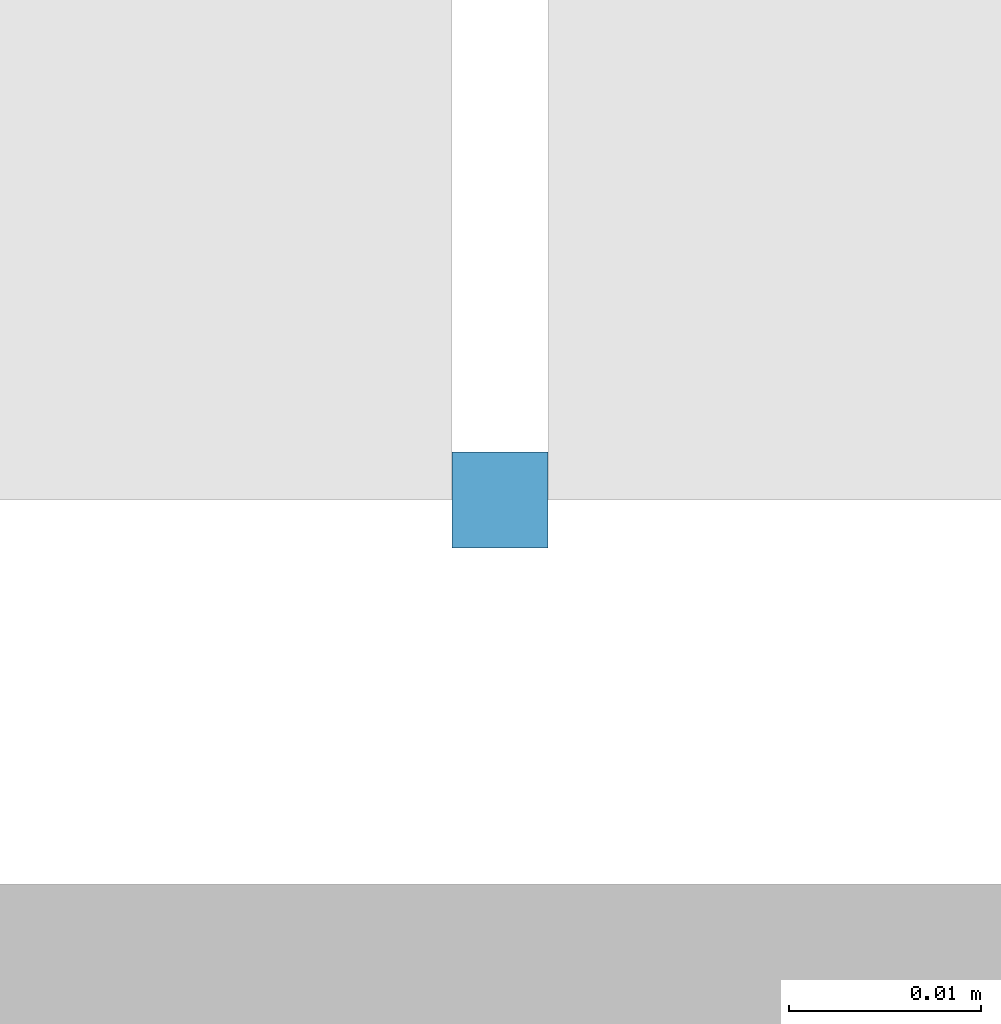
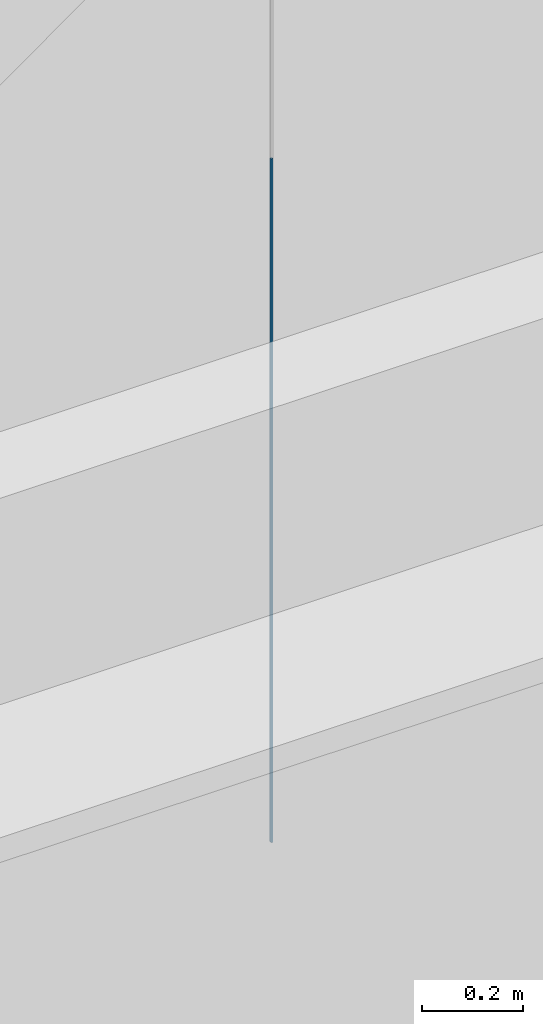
# One storey, part 109 of 302: 1 member, 1 element without a shape of its own.
"""IFC2X3 building model written with IfcOpenShell, lengths in metres."""

from ifc_helpers import new_model, entity, si_unit, converted_unit, derived_unit, direction, frame, frame_2d, origin, place, context, subcontext, project, spatial, rectangle, extrude, source, transform, mapped, material, type_object, type_shapes, element, aggregate, save


model = new_model("IFC2X3")

# Units and contexts
model_context = context("Model", 3, precision=1e-05, world=origin(), true_north=direction((6.12303176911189e-17, 1.0)))
body_context = subcontext(model_context, "Body", "Model", "MODEL_VIEW")
ifc_project = project(units=[si_unit("LENGTHUNIT", "METRE"), si_unit("AREAUNIT", "SQUARE_METRE"), si_unit("VOLUMEUNIT", "CUBIC_METRE"), converted_unit("PLANEANGLEUNIT", "DEGREE", entity("IfcRatioMeasure", 0.0174532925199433), si_unit("PLANEANGLEUNIT", "RADIAN"), dimensions=[0, 0, 0, 0, 0, 0, 0]), si_unit("MASSUNIT", "GRAM", prefix="KILO"), derived_unit("MASSDENSITYUNIT", [(si_unit("MASSUNIT", "GRAM", prefix="KILO"), 1), (si_unit("LENGTHUNIT", "METRE"), -3)]), derived_unit("MOMENTOFINERTIAUNIT", [(si_unit("LENGTHUNIT", "METRE"), 4)]), si_unit("TIMEUNIT", "SECOND"), si_unit("FREQUENCYUNIT", "HERTZ"), si_unit("THERMODYNAMICTEMPERATUREUNIT", "DEGREE_CELSIUS"), derived_unit("THERMALTRANSMITTANCEUNIT", [(si_unit("MASSUNIT", "GRAM", prefix="KILO"), 1), (si_unit("THERMODYNAMICTEMPERATUREUNIT", "KELVIN"), -1), (si_unit("TIMEUNIT", "SECOND"), -3)]), derived_unit("VOLUMETRICFLOWRATEUNIT", [(si_unit("LENGTHUNIT", "METRE"), 3), (si_unit("TIMEUNIT", "SECOND"), -1)]), si_unit("ELECTRICCURRENTUNIT", "AMPERE"), si_unit("ELECTRICVOLTAGEUNIT", "VOLT"), si_unit("POWERUNIT", "WATT"), si_unit("FORCEUNIT", "NEWTON", prefix="KILO"), si_unit("ILLUMINANCEUNIT", "LUX"), si_unit("LUMINOUSFLUXUNIT", "LUMEN"), si_unit("LUMINOUSINTENSITYUNIT", "CANDELA"), derived_unit("USERDEFINED", [(si_unit("MASSUNIT", "GRAM", prefix="KILO"), -1), (si_unit("LENGTHUNIT", "METRE"), -2), (si_unit("TIMEUNIT", "SECOND"), 3), (si_unit("LUMINOUSFLUXUNIT", "LUMEN"), 1)]), derived_unit("LINEARVELOCITYUNIT", [(si_unit("LENGTHUNIT", "METRE"), 1), (si_unit("TIMEUNIT", "SECOND"), -1)]), si_unit("PRESSUREUNIT", "PASCAL"), derived_unit("USERDEFINED", [(si_unit("LENGTHUNIT", "METRE"), -2), (si_unit("MASSUNIT", "GRAM", prefix="KILO"), 1), (si_unit("TIMEUNIT", "SECOND"), -2)]), derived_unit("LINEARFORCEUNIT", [(si_unit("MASSUNIT", "GRAM", prefix="KILO"), 1), (si_unit("LENGTHUNIT", "METRE"), 1), (si_unit("TIMEUNIT", "SECOND"), -2), (si_unit("LENGTHUNIT", "METRE"), -1)]), derived_unit("PLANARFORCEUNIT", [(si_unit("MASSUNIT", "GRAM", prefix="KILO"), 1), (si_unit("LENGTHUNIT", "METRE"), 1), (si_unit("TIMEUNIT", "SECOND"), -2), (si_unit("LENGTHUNIT", "METRE"), -2)])], contexts=[model_context])

# Site, building, storey
site_placement = place(None, origin())
site = spatial("IfcSite", under=ifc_project, at=site_placement, Name="Default", CompositionType="ELEMENT")
building_placement = place(site_placement, origin())
building = spatial("IfcBuilding", under=site, at=building_placement, CompositionType="ELEMENT")
storey_placement = place(building_placement, frame((0.0, 0.0, -1.3)))
storey = spatial("IfcBuildingStorey", under=building, at=storey_placement, Name="00_EG", CompositionType="ELEMENT", Elevation=-1.3)

# Curtain wall, member
curtain_wall_type = type_object("IfcCurtainWallType", Name="Fassade:Curtain Wall 1", PredefinedType="NOTDEFINED")
curtain_wall_placement = place(storey_placement, frame((0.0, 0.0, 1.3)))
curtain_wall = element("IfcCurtainWall", 1, at=curtain_wall_placement, inside=storey, type_object=curtain_wall_type, Name="Fassade:Curtain Wall 1", ObjectType="Fassade:Curtain Wall 1")
ifc_material = material(Name="Aluminium")
member_type = type_object("IfcMemberType", Name="Rectangular Mullion:Paneele Spalt", PredefinedType="MULLION", material=ifc_material)
shared_shape = source(origin(), body_context, "Body", "SweptSolid", [
    extrude(rectangle(XDim=0.005, YDim=0.005, at=frame_2d((0.0, -6.50521303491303e-19), x_axis=(1.0, 0.0))), frame((0.0, 0.0, -1.66000000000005), z_axis=(0.0, 0.0, 1.0), x_axis=(0.0, -1.0, 0.0)), (0.0, 0.0, 1.0), 1.66000000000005),
])
type_shapes(member_type, [shared_shape])
member_placement = place(storey_placement, frame((-215.610111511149, 45.578088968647, 4.06999999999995), z_axis=(0.0, 0.0, -1.0), x_axis=(-1.0, 0.0, 0.0)))
member = element("IfcMember", 2, at=member_placement, type_object=member_type, material=ifc_material, Name="Rectangular Mullion:Paneele Spalt", ObjectType="Rectangular Mullion:Paneele Spalt", context=body_context, shape_type="MappedRepresentation", body=[
    mapped(shared_shape, transform((0.0, 0.0, 0.0), scale=1.0)),
])
aggregate(curtain_wall, [member])

save(model, "model.ifc")
